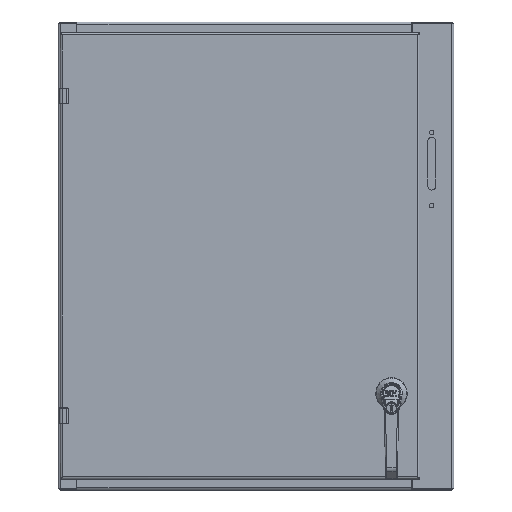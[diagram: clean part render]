
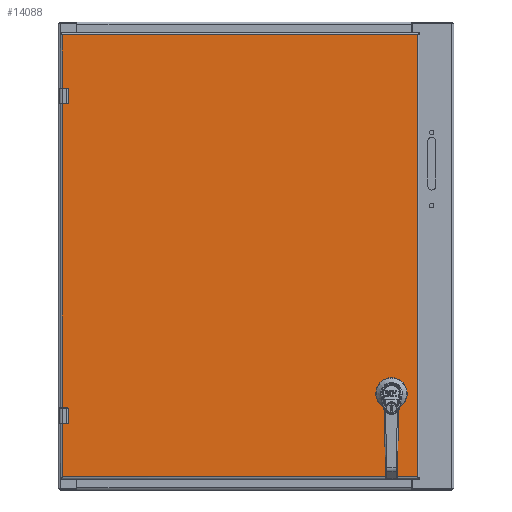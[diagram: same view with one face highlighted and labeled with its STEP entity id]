
A CAD part, top view. The second image highlights one B-rep face of the part: STEP entity #14088.
In plain terms, the highlighted planar face has unit normal (0, 0, 1).
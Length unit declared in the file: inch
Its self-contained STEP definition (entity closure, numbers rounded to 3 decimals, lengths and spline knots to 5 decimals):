
#10913=CARTESIAN_POINT('',(9.7125,-9.915,0.));
#10914=DIRECTION('',(0.,0.,1.));
#10915=DIRECTION('',(-1.,0.,0.));
#10916=AXIS2_PLACEMENT_3D('',#10913,#10914,#10915);
#10921=CARTESIAN_POINT('',(9.7125,-9.915,0.));
#10922=DIRECTION('',(0.,0.,1.));
#10923=DIRECTION('',(1.,0.,0.));
#10924=AXIS2_PLACEMENT_3D('',#10921,#10922,#10923);
#10929=DIRECTION('',(1.,0.,0.));
#10930=VECTOR('',#10929,0.39715);
#10931=CARTESIAN_POINT('',(9.51392,-8.429,0.));
#10932=LINE('',#10931,#10930);
#10936=CARTESIAN_POINT('',(9.7125,-8.825,0.));
#10937=DIRECTION('',(0.,0.,1.));
#10938=DIRECTION('',(-0.448,0.894,0.));
#10939=AXIS2_PLACEMENT_3D('',#10936,#10937,#10938);
#10944=DIRECTION('',(0.,1.,0.));
#10945=VECTOR('',#10944,0.39715);
#10946=CARTESIAN_POINT('',(9.3165,-9.02358,0.));
#10947=LINE('',#10946,#10945);
#10951=CARTESIAN_POINT('',(9.7125,-8.825,0.));
#10952=DIRECTION('',(0.,0.,1.));
#10953=DIRECTION('',(-0.894,-0.448,0.));
#10954=AXIS2_PLACEMENT_3D('',#10951,#10952,#10953);
#10959=DIRECTION('',(-1.,0.,0.));
#10960=VECTOR('',#10959,0.39715);
#10961=CARTESIAN_POINT('',(9.91108,-9.221,0.));
#10962=LINE('',#10961,#10960);
#10966=CARTESIAN_POINT('',(9.7125,-8.825,0.));
#10967=DIRECTION('',(0.,0.,1.));
#10968=DIRECTION('',(0.448,-0.894,0.));
#10969=AXIS2_PLACEMENT_3D('',#10966,#10967,#10968);
#10974=DIRECTION('',(0.,-1.,0.));
#10975=VECTOR('',#10974,0.39715);
#10976=CARTESIAN_POINT('',(10.1085,-8.62642,0.));
#10977=LINE('',#10976,#10975);
#10981=CARTESIAN_POINT('',(9.7125,-8.825,0.));
#10982=DIRECTION('',(0.,0.,1.));
#10983=DIRECTION('',(0.894,0.448,0.));
#10984=AXIS2_PLACEMENT_3D('',#10981,#10982,#10983);
#10989=DIRECTION('',(1.,0.,0.));
#10990=VECTOR('',#10989,0.339);
#10991=CARTESIAN_POINT('',(-11.3925,-10.595,0.));
#10992=LINE('',#10991,#10990);
#10996=DIRECTION('',(0.,1.,0.));
#10997=VECTOR('',#10996,0.63);
#10998=CARTESIAN_POINT('',(-11.0235,-10.565,0.));
#10999=LINE('',#10998,#10997);
#11003=DIRECTION('',(1.,0.,0.));
#11004=VECTOR('',#11003,0.339);
#11005=CARTESIAN_POINT('',(-11.3925,-9.905,0.));
#11006=LINE('',#11005,#11004);
#11010=DIRECTION('',(1.,0.,0.));
#11011=VECTOR('',#11010,0.339);
#11012=CARTESIAN_POINT('',(-11.3925,9.905,0.));
#11013=LINE('',#11012,#11011);
#11017=DIRECTION('',(0.,1.,0.));
#11018=VECTOR('',#11017,0.63);
#11019=CARTESIAN_POINT('',(-11.0235,9.935,0.));
#11020=LINE('',#11019,#11018);
#11024=DIRECTION('',(1.,0.,0.));
#11025=VECTOR('',#11024,0.339);
#11026=CARTESIAN_POINT('',(-11.3925,10.595,0.));
#11027=LINE('',#11026,#11025);
#11558=CARTESIAN_POINT('',(-11.0535,-9.935,0.));
#11559=DIRECTION('',(0.,0.,-1.));
#11560=DIRECTION('',(0.,1.,0.));
#11561=AXIS2_PLACEMENT_3D('',#11558,#11559,#11560);
#11588=CARTESIAN_POINT('',(-11.0535,-10.565,0.));
#11589=DIRECTION('',(0.,0.,-1.));
#11590=DIRECTION('',(1.,0.,0.));
#11591=AXIS2_PLACEMENT_3D('',#11588,#11589,#11590);
#11641=DIRECTION('',(0.,1.,0.));
#11642=VECTOR('',#11641,19.81);
#11643=CARTESIAN_POINT('',(-11.3925,-9.905,0.));
#11644=LINE('',#11643,#11642);
#11688=DIRECTION('',(0.,1.,0.));
#11689=VECTOR('',#11688,3.585);
#11690=CARTESIAN_POINT('',(-11.3925,10.595,0.));
#11691=LINE('',#11690,#11689);
#11765=DIRECTION('',(0.,1.,0.));
#11766=VECTOR('',#11765,3.585);
#11767=CARTESIAN_POINT('',(-11.3925,-14.18,0.));
#11768=LINE('',#11767,#11766);
#12400=CARTESIAN_POINT('',(-11.0535,9.935,0.));
#12401=DIRECTION('',(0.,0.,-1.));
#12402=DIRECTION('',(1.,0.,0.));
#12403=AXIS2_PLACEMENT_3D('',#12400,#12401,#12402);
#12430=CARTESIAN_POINT('',(-11.0535,10.565,0.));
#12431=DIRECTION('',(0.,0.,-1.));
#12432=DIRECTION('',(0.,1.,0.));
#12433=AXIS2_PLACEMENT_3D('',#12430,#12431,#12432);
#13210=DIRECTION('',(-1.,0.,0.));
#13211=VECTOR('',#13210,22.785);
#13212=CARTESIAN_POINT('',(11.3925,-14.18,0.));
#13213=LINE('',#13212,#13211);
#13300=DIRECTION('',(0.,-1.,0.));
#13301=VECTOR('',#13300,28.36);
#13302=CARTESIAN_POINT('',(11.3925,14.18,0.));
#13303=LINE('',#13302,#13301);
#13509=DIRECTION('',(1.,0.,0.));
#13510=VECTOR('',#13509,22.785);
#13511=CARTESIAN_POINT('',(-11.3925,14.18,0.));
#13512=LINE('',#13511,#13510);
#13641=CARTESIAN_POINT('',(11.3925,14.18,0.));
#13642=CARTESIAN_POINT('',(11.3925,-14.18,0.));
#13643=VERTEX_POINT('',#13641);
#13644=VERTEX_POINT('',#13642);
#13769=CARTESIAN_POINT('',(9.5875,-9.915,0.));
#13770=CARTESIAN_POINT('',(9.8375,-9.915,0.));
#13771=VERTEX_POINT('',#13769);
#13772=VERTEX_POINT('',#13770);
#13773=CARTESIAN_POINT('',(9.51392,-8.429,0.));
#13774=CARTESIAN_POINT('',(9.91108,-8.429,0.));
#13775=VERTEX_POINT('',#13773);
#13776=VERTEX_POINT('',#13774);
#13777=CARTESIAN_POINT('',(10.1085,-8.62642,0.));
#13778=VERTEX_POINT('',#13777);
#13779=CARTESIAN_POINT('',(10.1085,-9.02358,0.));
#13780=VERTEX_POINT('',#13779);
#13781=CARTESIAN_POINT('',(9.91108,-9.221,0.));
#13782=VERTEX_POINT('',#13781);
#13783=CARTESIAN_POINT('',(9.51392,-9.221,0.));
#13784=VERTEX_POINT('',#13783);
#13785=CARTESIAN_POINT('',(9.3165,-9.02358,0.));
#13786=VERTEX_POINT('',#13785);
#13787=CARTESIAN_POINT('',(9.3165,-8.62642,0.));
#13788=VERTEX_POINT('',#13787);
#13818=CARTESIAN_POINT('',(-11.3925,14.18,0.));
#13820=VERTEX_POINT('',#13818);
#13825=CARTESIAN_POINT('',(-11.3925,-14.18,0.));
#13827=VERTEX_POINT('',#13825);
#13929=CARTESIAN_POINT('',(-11.3925,10.595,0.));
#13931=VERTEX_POINT('',#13929);
#13933=CARTESIAN_POINT('',(-11.3925,9.905,0.));
#13935=VERTEX_POINT('',#13933);
#13945=CARTESIAN_POINT('',(-11.3925,-9.905,0.));
#13947=VERTEX_POINT('',#13945);
#13949=CARTESIAN_POINT('',(-11.3925,-10.595,0.));
#13951=VERTEX_POINT('',#13949);
#13961=CARTESIAN_POINT('',(-11.0535,10.595,0.));
#13963=VERTEX_POINT('',#13961);
#13965=CARTESIAN_POINT('',(-11.0235,10.565,0.));
#13967=VERTEX_POINT('',#13965);
#13969=CARTESIAN_POINT('',(-11.0235,9.935,0.));
#13971=VERTEX_POINT('',#13969);
#13973=CARTESIAN_POINT('',(-11.0535,9.905,0.));
#13975=VERTEX_POINT('',#13973);
#13993=CARTESIAN_POINT('',(-11.0535,-9.905,0.));
#13995=VERTEX_POINT('',#13993);
#13997=CARTESIAN_POINT('',(-11.0235,-9.935,0.));
#13999=VERTEX_POINT('',#13997);
#14001=CARTESIAN_POINT('',(-11.0235,-10.565,0.));
#14003=VERTEX_POINT('',#14001);
#14005=CARTESIAN_POINT('',(-11.0535,-10.595,0.));
#14007=VERTEX_POINT('',#14005);
#14025=CARTESIAN_POINT('',(0.,0.,0.));
#14026=DIRECTION('',(0.,0.,-1.));
#14027=DIRECTION('',(1.,0.,0.));
#14028=AXIS2_PLACEMENT_3D('',#14025,#14026,#14027);
#14029=PLANE('',#14028);
#14031=ORIENTED_EDGE('',*,*,#14030,.T.);
#14033=ORIENTED_EDGE('',*,*,#14032,.T.);
#14035=ORIENTED_EDGE('',*,*,#14034,.T.);
#14037=ORIENTED_EDGE('',*,*,#14036,.F.);
#14039=ORIENTED_EDGE('',*,*,#14038,.T.);
#14041=ORIENTED_EDGE('',*,*,#14040,.F.);
#14043=ORIENTED_EDGE('',*,*,#14042,.F.);
#14045=ORIENTED_EDGE('',*,*,#14044,.T.);
#14047=ORIENTED_EDGE('',*,*,#14046,.T.);
#14049=ORIENTED_EDGE('',*,*,#14048,.F.);
#14051=ORIENTED_EDGE('',*,*,#14050,.T.);
#14053=ORIENTED_EDGE('',*,*,#14052,.F.);
#14055=ORIENTED_EDGE('',*,*,#14054,.F.);
#14057=ORIENTED_EDGE('',*,*,#14056,.T.);
#14059=ORIENTED_EDGE('',*,*,#14058,.T.);
#14061=ORIENTED_EDGE('',*,*,#14060,.T.);
#14062=EDGE_LOOP('',(#14031,#14033,#14035,#14037,#14039,#14041,#14043,#14045,
#14047,#14049,#14051,#14053,#14055,#14057,#14059,#14061));
#14063=FACE_OUTER_BOUND('',#14062,.F.);
#14065=ORIENTED_EDGE('',*,*,#14064,.F.);
#14067=ORIENTED_EDGE('',*,*,#14066,.T.);
#14069=ORIENTED_EDGE('',*,*,#14068,.F.);
#14071=ORIENTED_EDGE('',*,*,#14070,.T.);
#14073=ORIENTED_EDGE('',*,*,#14072,.F.);
#14075=ORIENTED_EDGE('',*,*,#14074,.T.);
#14077=ORIENTED_EDGE('',*,*,#14076,.F.);
#14079=ORIENTED_EDGE('',*,*,#14078,.T.);
#14080=EDGE_LOOP('',(#14065,#14067,#14069,#14071,#14073,#14075,#14077,#14079));
#14081=FACE_BOUND('',#14080,.F.);
#14083=ORIENTED_EDGE('',*,*,#14082,.T.);
#14085=ORIENTED_EDGE('',*,*,#14084,.T.);
#14086=EDGE_LOOP('',(#14083,#14085));
#14087=FACE_BOUND('',#14086,.F.);
#10917=CIRCLE('',#10916,0.125);
#10925=CIRCLE('',#10924,0.125);
#10940=CIRCLE('',#10939,0.443);
#10955=CIRCLE('',#10954,0.443);
#10970=CIRCLE('',#10969,0.443);
#10985=CIRCLE('',#10984,0.443);
#11562=CIRCLE('',#11561,0.03);
#11592=CIRCLE('',#11591,0.03);
#12404=CIRCLE('',#12403,0.03);
#12434=CIRCLE('',#12433,0.03);
#14030=EDGE_CURVE('',#13644,#13827,#13213,.T.);
#14032=EDGE_CURVE('',#13827,#13951,#11768,.T.);
#14034=EDGE_CURVE('',#13951,#14007,#10992,.T.);
#14036=EDGE_CURVE('',#14003,#14007,#11592,.T.);
#14038=EDGE_CURVE('',#14003,#13999,#10999,.T.);
#14040=EDGE_CURVE('',#13995,#13999,#11562,.T.);
#14042=EDGE_CURVE('',#13947,#13995,#11006,.T.);
#14044=EDGE_CURVE('',#13947,#13935,#11644,.T.);
#14046=EDGE_CURVE('',#13935,#13975,#11013,.T.);
#14048=EDGE_CURVE('',#13971,#13975,#12404,.T.);
#14050=EDGE_CURVE('',#13971,#13967,#11020,.T.);
#14052=EDGE_CURVE('',#13963,#13967,#12434,.T.);
#14054=EDGE_CURVE('',#13931,#13963,#11027,.T.);
#14056=EDGE_CURVE('',#13931,#13820,#11691,.T.);
#14058=EDGE_CURVE('',#13820,#13643,#13512,.T.);
#14060=EDGE_CURVE('',#13643,#13644,#13303,.T.);
#14064=EDGE_CURVE('',#13775,#13776,#10932,.T.);
#14066=EDGE_CURVE('',#13775,#13788,#10940,.T.);
#14068=EDGE_CURVE('',#13786,#13788,#10947,.T.);
#14070=EDGE_CURVE('',#13786,#13784,#10955,.T.);
#14072=EDGE_CURVE('',#13782,#13784,#10962,.T.);
#14074=EDGE_CURVE('',#13782,#13780,#10970,.T.);
#14076=EDGE_CURVE('',#13778,#13780,#10977,.T.);
#14078=EDGE_CURVE('',#13778,#13776,#10985,.T.);
#14082=EDGE_CURVE('',#13771,#13772,#10917,.T.);
#14084=EDGE_CURVE('',#13772,#13771,#10925,.T.);
#14088=ADVANCED_FACE('',(#14063,#14081,#14087),#14029,.F.);
